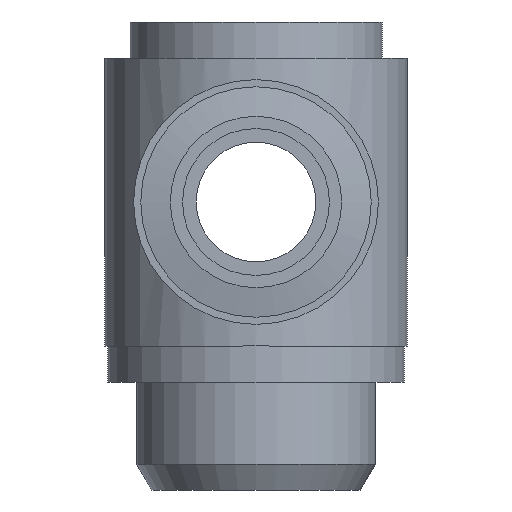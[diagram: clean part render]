
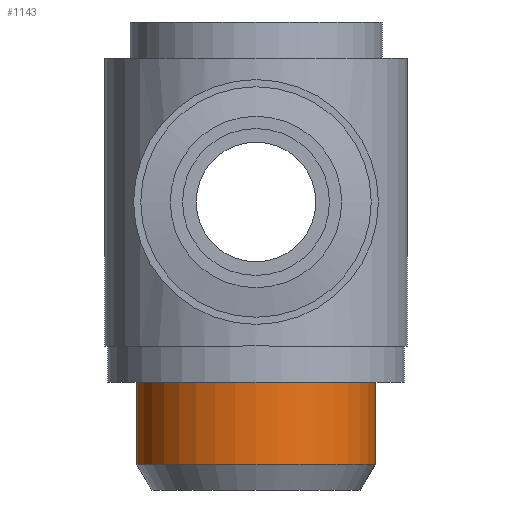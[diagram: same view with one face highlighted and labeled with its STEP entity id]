
A CAD part, front view. The second image highlights one B-rep face of the part: STEP entity #1143.
In plain terms, the highlighted cylindrical face has radius 8.3 mm (diameter 16.6 mm), a full revolution.
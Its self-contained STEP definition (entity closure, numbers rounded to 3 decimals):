
#1103=CARTESIAN_POINT('',(0.,-8.3,-18.2));
#1104=VERTEX_POINT('',#1103);
#1105=CARTESIAN_POINT('',(0.0,0.0,-18.2));
#1106=DIRECTION('',(0.0,0.0,-1.0));
#1107=DIRECTION('',(0.0,1.0,0.0));
#1108=AXIS2_PLACEMENT_3D('',#1105,#1106,#1107);
#1109=CIRCLE('',#1108,8.3);
#1110=EDGE_CURVE('',#1104,#1104,#1109,.T.);
#1124=CARTESIAN_POINT('',(0.0,0.0,-16.25));
#1125=DIRECTION('',(0.0,0.0,1.0));
#1126=DIRECTION('',(0.0,-1.0,0.0));
#1127=AXIS2_PLACEMENT_3D('',#1124,#1125,#1126);
#1128=CYLINDRICAL_SURFACE('',#1127,8.3);
#1129=CARTESIAN_POINT('',(0.0,-8.3,-12.5));
#1130=VERTEX_POINT('',#1129);
#1131=CARTESIAN_POINT('',(0.0,0.0,-12.5));
#1132=DIRECTION('',(0.0,0.0,1.0));
#1133=DIRECTION('',(0.0,-1.0,0.0));
#1134=AXIS2_PLACEMENT_3D('',#1131,#1132,#1133);
#1135=CIRCLE('',#1134,8.3);
#1136=EDGE_CURVE('',#1130,#1130,#1135,.T.);
#1137=ORIENTED_EDGE('',*,*,#1136,.F.);
#1138=EDGE_LOOP('',(#1137));
#1139=FACE_OUTER_BOUND('',#1138,.T.);
#1140=ORIENTED_EDGE('',*,*,#1110,.F.);
#1141=EDGE_LOOP('',(#1140));
#1142=FACE_BOUND('',#1141,.T.);
#1143=ADVANCED_FACE('',(#1139,#1142),#1128,.T.);
